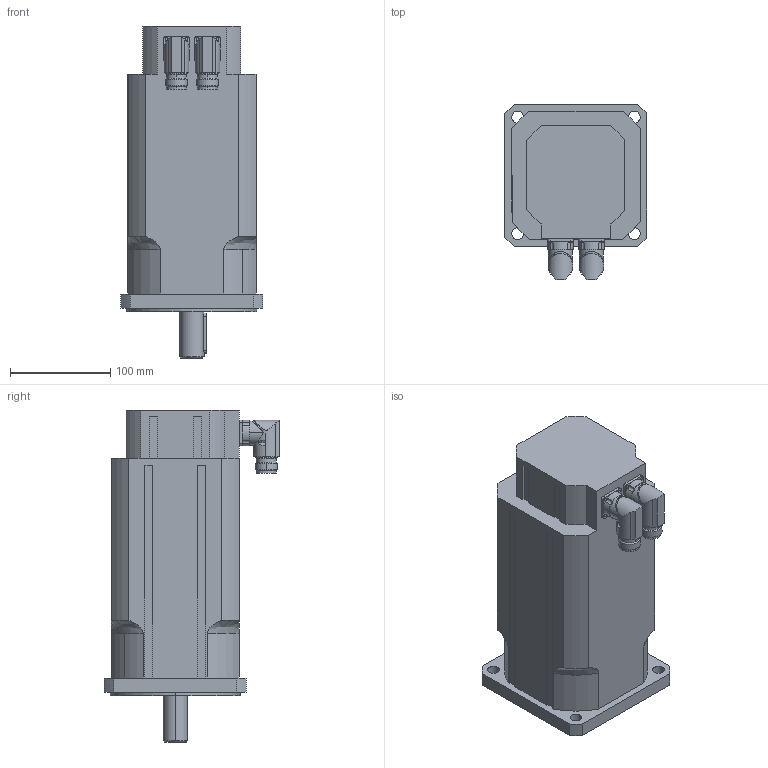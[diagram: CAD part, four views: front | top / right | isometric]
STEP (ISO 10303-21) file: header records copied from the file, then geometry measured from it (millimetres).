
FILE_DESCRIPTION(('STEP AP203'),'2;1');
FILE_NAME('MT5-1350_BX.stp','2006-08-28T20:48:17',(''),(''),'2005.2.102','THINKDESIGN','');
FILE_SCHEMA(('CONFIG_CONTROL_DESIGN'));
Length unit declared in the file: millimetre
Bounding box: 142 x 175.5 x 332 mm (x, y, z)
Volume: 4261773 mm3; surface area: 201030.9 mm2
Topology: 3 solids, 3 shells, 255 faces, 679 edges, 439 vertices
Faces by surface type: cylinder 110, plane 107, bspline 38
Full cylindrical faces by diameter (mm): 20 x2
Entity records: 9316 total; most frequent: CARTESIAN_POINT 2863, ORIENTED_EDGE 1354, DIRECTION 1327, EDGE_CURVE 677, AXIS2_PLACEMENT_3D 493, VERTEX_POINT 439, VECTOR 341, LINE 341
